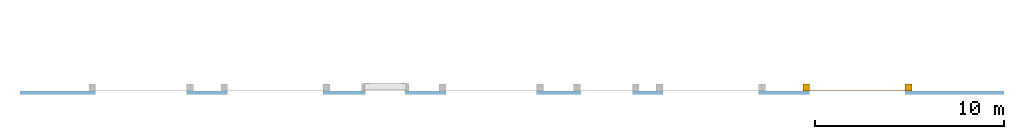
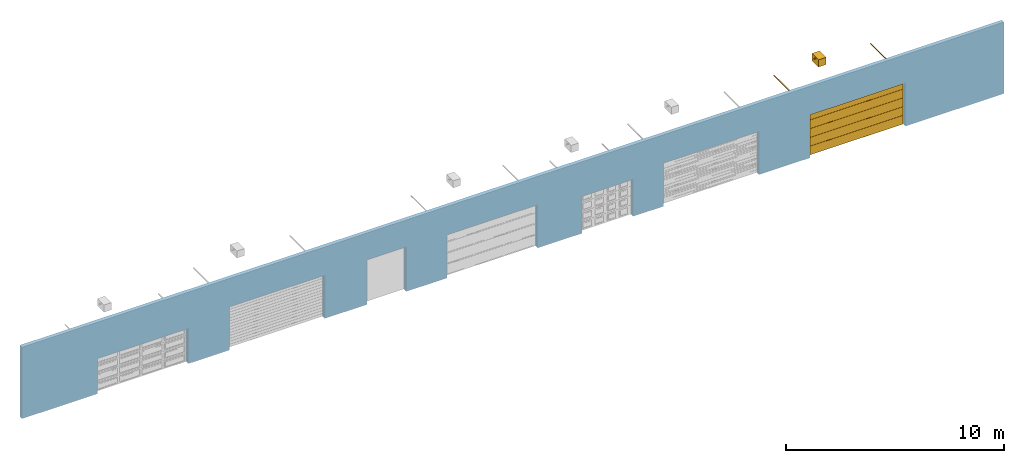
# One storey, part 4 of 4: 1 door, 7 openings, plus 1 element that does not belong to this part.
"""IFC2X3 building model written with IfcOpenShell, lengths in millimetres."""

import ifcopenshell
import ifcopenshell.guid

model = None  # the IFC model being written
_history = None  # IfcOwnerHistory: only IFC2X3 demands one
_inside = {}  # id of a spatial element -> (the spatial element, [elements in it])
_under = {}  # id of a project, library or spatial element -> (it, [spatial elements below it])
_declared = {}  # id of a project -> (the project, [libraries it declares])
_typed = {}  # id of a type object -> (the type object, [elements of that type])
_made_of = {}  # id of a material, layer set ... -> (it, [elements and type objects made of it])


def new_model(schema):
    """Start an empty IFC model of exactly this schema.

    Asked for "IFC4X3", IfcOpenShell would pick the latest addendum, in which some entities
    have other attributes; the version numbers below select the first issue.
    IFC2X3 requires an IfcOwnerHistory on every rooted entity: one is made here for all.
    """
    global model, _history
    if schema == "IFC4X3":
        model = ifcopenshell.file(schema_version=(4, 3, 0, 0))
    else:
        model = ifcopenshell.file(schema=schema)
    _inside.clear()
    _under.clear()
    _declared.clear()
    _typed.clear()
    _made_of.clear()
    _history = None
    if model.schema == "IFC2X3":
        org = make("IfcOrganization", Name="unknown")
        user = make(
            "IfcPersonAndOrganization",
            ThePerson=make("IfcPerson", FamilyName="unknown"),
            TheOrganization=org,
        )
        app = make(
            "IfcApplication",
            ApplicationDeveloper=org,
            Version="unknown",
            ApplicationFullName="unknown",
            ApplicationIdentifier="unknown",
        )
        _history = make(
            "IfcOwnerHistory",
            OwningUser=user,
            OwningApplication=app,
            ChangeAction="ADDED",
            CreationDate=0,
        )
    return model


def make(cls, **values):
    """One entity of the class cls with the attributes given. An attribute that is None is left unset."""
    return model.create_entity(
        cls, **{name: value for name, value in values.items() if value is not None}
    )


def entity(cls, *values):
    """Any entity or typed value of the class cls, its attributes in the order of the schema. None: left unset."""
    e = model.create_entity(cls)
    for i, value in enumerate(values):
        if value is not None:
            e[i] = value
    return e


def rooted(cls, **values):
    """An entity with a GlobalId (a new one), such as an element, a storey or a relation."""
    return make(cls, GlobalId=ifcopenshell.guid.new(), OwnerHistory=_history, **values)


def si_unit(unit_type, name, prefix=None):
    """IfcSIUnit, for example si_unit("LENGTHUNIT", "METRE", prefix="MILLI")."""
    return make("IfcSIUnit", UnitType=unit_type, Prefix=prefix, Name=name)


def converted_unit(unit_type, name, factor, base, dimensions=None, offset=None):
    """IfcConversionBasedUnit, such as the inch: factor (a typed value) times the base unit."""
    return make(
        "IfcConversionBasedUnit"
        if offset is None
        else "IfcConversionBasedUnitWithOffset",
        ConversionOffset=offset,
        Dimensions=None
        if dimensions is None
        else entity("IfcDimensionalExponents", *dimensions),
        UnitType=unit_type,
        Name=name,
        ConversionFactor=make(
            "IfcMeasureWithUnit", ValueComponent=factor, UnitComponent=base
        ),
    )


def derived_unit(unit_type, elements):
    """IfcDerivedUnit: a product of units, each with its exponent."""
    return make(
        "IfcDerivedUnit",
        Elements=[
            make("IfcDerivedUnitElement", Unit=unit, Exponent=power)
            for unit, power in elements
        ],
        UnitType=unit_type,
    )


def assignment(units):
    """IfcUnitAssignment: the units of a project."""
    return None if units is None else make("IfcUnitAssignment", Units=units)


def point(xyz):
    """IfcCartesianPoint."""
    return None if xyz is None else make("IfcCartesianPoint", Coordinates=xyz)


def direction(xyz):
    """IfcDirection."""
    return None if xyz is None else make("IfcDirection", DirectionRatios=xyz)


def frame(location, z_axis=None, x_axis=None):
    """IfcAxis2Placement3D, a coordinate frame: its origin and axes. An axis left out is left unset."""
    return make(
        "IfcAxis2Placement3D",
        Location=point(location),
        Axis=direction(z_axis),
        RefDirection=direction(x_axis),
    )


def frame_2d(location, x_axis=None):
    """IfcAxis2Placement2D, a coordinate frame in the plane: its origin and x axis."""
    return make(
        "IfcAxis2Placement2D", Location=point(location), RefDirection=direction(x_axis)
    )


def origin():
    """The frame at (0, 0, 0) with its axes left unset."""
    return frame((0.0, 0.0, 0.0))


def place(relative_to, where):
    """IfcLocalPlacement: puts the frame where relative to a parent placement (None: the world)."""
    return make(
        "IfcLocalPlacement", PlacementRelTo=relative_to, RelativePlacement=where
    )


def context(
    kind, dimensions, precision=None, world=None, true_north=None, identifier=None
):
    """IfcGeometricRepresentationContext, for example the 3D "Model" context."""
    return make(
        "IfcGeometricRepresentationContext",
        ContextIdentifier=identifier,
        ContextType=kind,
        CoordinateSpaceDimension=dimensions,
        Precision=precision,
        WorldCoordinateSystem=world,
        TrueNorth=true_north,
    )


def subcontext(parent, identifier, kind, view, scale=None):
    """IfcGeometricRepresentationSubContext, for example "Body" below "Model"."""
    return make(
        "IfcGeometricRepresentationSubContext",
        ContextIdentifier=identifier,
        ContextType=kind,
        ParentContext=parent,
        TargetScale=scale,
        TargetView=view,
    )


def project(units=None, contexts=None):
    """IfcProject with its units and contexts."""
    return rooted(
        "IfcProject",
        Name="project",
        RepresentationContexts=contexts,
        UnitsInContext=assignment(units),
    )


def spatial(cls, under=None, at=None, **own):
    """A site, building, storey or space (cls), placed at a placement, below another one or the project."""
    s = rooted(cls, ObjectPlacement=at, **own)
    if under is not None:
        _under.setdefault(under.id(), (under, []))[1].append(s)
    return s


def profile(cls, at=None, kind="AREA", **sizes):
    """A parametric profile (cls). Its sizes go by their IFC names, for example OverallWidth=200.0."""
    return make(cls, ProfileType=kind, Position=at, **sizes)


def rectangle(**sizes):
    """IfcRectangleProfileDef."""
    return profile("IfcRectangleProfileDef", **sizes)


def extrude(swept, where, along, depth):
    """IfcExtrudedAreaSolid: the profile swept, set in the frame where, extruded along a direction by depth."""
    return make(
        "IfcExtrudedAreaSolid",
        SweptArea=swept,
        Position=where,
        ExtrudedDirection=direction(along),
        Depth=depth,
    )


def faces_of(points, faces, orient=None, outer=None):
    """IfcFace entities. A face is a list of loops; a loop is a list of indices into points, from 0.

    orient and outer hold one flag for each loop. By default every Orientation is true, the
    first loop of a face is its IfcFaceOuterBound and the others are IfcFaceBound.
    """
    made = []
    for i, loops in enumerate(faces):
        bounds = []
        for j, loop in enumerate(loops):
            is_outer = j == 0 if outer is None else outer[i][j]
            bounds.append(
                make(
                    "IfcFaceOuterBound" if is_outer else "IfcFaceBound",
                    Bound=make("IfcPolyLoop", Polygon=[points[k] for k in loop]),
                    Orientation=True if orient is None else orient[i][j],
                )
            )
        made.append(make("IfcFace", Bounds=bounds))
    return made


def faceted_brep(points, faces, orient=None, outer=None, voids=None):
    """IfcFacetedBrep: a solid bounded by flat faces; with voids (closed shells), ...WithVoids."""
    shared = [point(p) for p in points]
    hull = make("IfcClosedShell", CfsFaces=faces_of(shared, faces, orient, outer))
    if voids is None:
        return make("IfcFacetedBrep", Outer=hull)
    return make(
        "IfcFacetedBrepWithVoids",
        Outer=hull,
        Voids=[
            make(cls, CfsFaces=faces_of(shared, fs, o, b)) for cls, fs, o, b in voids
        ],
    )


def shape(context_of_items, identifier, shape_type, items):
    """IfcShapeRepresentation: the items that make up one representation, for example the "Body"."""
    return make(
        "IfcShapeRepresentation",
        ContextOfItems=context_of_items,
        RepresentationIdentifier=identifier,
        RepresentationType=shape_type,
        Items=items,
    )


def source(mapping_origin, context_of_items, identifier, shape_type, items):
    """IfcRepresentationMap: a shape defined once, which mapped items show again and again."""
    return make(
        "IfcRepresentationMap",
        MappingOrigin=mapping_origin,
        MappedRepresentation=shape(context_of_items, identifier, shape_type, items),
    )


def transform(
    local_origin,
    x_axis=None,
    y_axis=None,
    z_axis=None,
    scale=None,
    scale2=None,
    scale3=None,
    uniform=True,
):
    """IfcCartesianTransformationOperator3D, or its non-uniform kind. x_axis, y_axis, z_axis: its Axis1, 2, 3."""
    if uniform:
        return make(
            "IfcCartesianTransformationOperator3D",
            Axis1=direction(x_axis),
            Axis2=direction(y_axis),
            LocalOrigin=point(local_origin),
            Scale=scale,
            Axis3=direction(z_axis),
        )
    return make(
        "IfcCartesianTransformationOperator3DnonUniform",
        Axis1=direction(x_axis),
        Axis2=direction(y_axis),
        LocalOrigin=point(local_origin),
        Scale=scale,
        Axis3=direction(z_axis),
        Scale2=scale2,
        Scale3=scale3,
    )


def mapped(mapping_source, mapping_target):
    """IfcMappedItem: shows the shape of a source again, moved by a transform."""
    return make(
        "IfcMappedItem", MappingSource=mapping_source, MappingTarget=mapping_target
    )


def material(Name=None, Category=None):
    """IfcMaterial."""
    return make("IfcMaterial", Name=Name, Category=Category)


def material_list(materials):
    """IfcMaterialList."""
    return make("IfcMaterialList", Materials=materials)


def layer(
    of_material, thickness, ventilated=None, Name=None, Category=None, Priority=None
):
    """IfcMaterialLayer: one layer of a wall or slab, of a material (None: an air gap)."""
    return make(
        "IfcMaterialLayer",
        Material=of_material,
        LayerThickness=thickness,
        IsVentilated=ventilated,
        Name=Name,
        Category=Category,
        Priority=Priority,
    )


def layer_set(layers, Name=None):
    """IfcMaterialLayerSet."""
    return make("IfcMaterialLayerSet", MaterialLayers=layers, LayerSetName=Name)


def layer_usage(for_layer_set, set_direction, sense, offset, extent=None):
    """IfcMaterialLayerSetUsage: how a layer set lies in its element."""
    return make(
        "IfcMaterialLayerSetUsage",
        ForLayerSet=for_layer_set,
        LayerSetDirection=set_direction,
        DirectionSense=sense,
        OffsetFromReferenceLine=offset,
        ReferenceExtent=extent,
    )


def made_of(thing, what):
    """Note that an element or type object is made of a material, layer set ...; save() writes the relation."""
    if what is not None:
        _made_of.setdefault(what.id(), (what, []))[1].append(thing)
    return thing


def type_object(cls, material=None, **own):
    """A type object (cls), such as IfcWallType, which elements share."""
    return made_of(rooted(cls, **own), material)


def type_shapes(of_type, sources):
    """Give a type object the sources (RepresentationMaps) that its elements show as mapped items."""
    of_type.RepresentationMaps = sources


def element(
    cls,
    number,
    at=None,
    inside=None,
    cuts=None,
    type_object=None,
    material=None,
    context=None,
    identifier="Body",
    shape_type=None,
    held_by="IfcProductDefinitionShape",
    body=None,
    shapes=None,
    **own,
):
    """One element of the class cls, such as IfcWall. Its Tag is "e" and its number.

    at: its placement. inside: the storey or other place that contains it. cuts: it is an
    opening in that element (IfcRelVoidsElement). A single representation is given by context,
    identifier, shape_type and body (its items); several are given by shapes. held_by: the class
    of the entity that holds the representations. save() writes the other relations.
    """
    e = rooted(cls, Tag="e%d" % number, ObjectPlacement=at, **own)
    if body is not None:
        shapes = [shape(context, identifier, shape_type, body)]
    if shapes is not None:
        e.Representation = make(held_by, Representations=shapes)
    if inside is not None:
        _inside.setdefault(inside.id(), (inside, []))[1].append(e)
    if cuts is not None:
        rooted(
            "IfcRelVoidsElement", RelatingBuildingElement=cuts, RelatedOpeningElement=e
        )
    if type_object is not None:
        _typed.setdefault(type_object.id(), (type_object, []))[1].append(e)
    return made_of(e, material)


def fill(opening, filler):
    """IfcRelFillsElement: the door or window that sits in an opening."""
    return rooted(
        "IfcRelFillsElement",
        RelatingOpeningElement=opening,
        RelatedBuildingElement=filler,
    )


def aggregate(whole, parts):
    """IfcRelAggregates: a whole, such as a stair, and the parts it consists of."""
    return rooted("IfcRelAggregates", RelatingObject=whole, RelatedObjects=parts)


def save(model, path):
    """Write the relations noted so far, then the file.

    IfcRelAggregates (storeys below a building ...), IfcRelContainedInSpatialStructure (elements
    in a storey), IfcRelDefinesByType, IfcRelAssociatesMaterial and IfcRelDeclares: one each for
    every whole, place, type object, material and project.
    """
    for whole, parts in _under.values():
        aggregate(whole, parts)
    for where, things in _inside.values():
        rooted(
            "IfcRelContainedInSpatialStructure",
            RelatedElements=things,
            RelatingStructure=where,
        )
    for kind, things in _typed.values():
        rooted("IfcRelDefinesByType", RelatedObjects=things, RelatingType=kind)
    for what, things in _made_of.values():
        rooted("IfcRelAssociatesMaterial", RelatedObjects=things, RelatingMaterial=what)
    for by, libraries in _declared.values():
        rooted("IfcRelDeclares", RelatingContext=by, RelatedDefinitions=libraries)
    model.write(path)


model = new_model("IFC2X3")

# Units and contexts
model_context = context("Model", 3, precision=0.01, world=origin(), true_north=direction((6.12303176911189e-17, 1.0)))
body_context = subcontext(model_context, "Body", "Model", "MODEL_VIEW")
ifc_project = project(units=[si_unit("LENGTHUNIT", "METRE", prefix="MILLI"), si_unit("AREAUNIT", "SQUARE_METRE"), si_unit("VOLUMEUNIT", "CUBIC_METRE"), converted_unit("PLANEANGLEUNIT", "DEGREE", entity("IfcRatioMeasure", 0.0174532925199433), si_unit("PLANEANGLEUNIT", "RADIAN"), dimensions=[0, 0, 0, 0, 0, 0, 0]), si_unit("MASSUNIT", "GRAM", prefix="KILO"), si_unit("TIMEUNIT", "SECOND"), si_unit("FREQUENCYUNIT", "HERTZ"), si_unit("THERMODYNAMICTEMPERATUREUNIT", "DEGREE_CELSIUS"), derived_unit("THERMALTRANSMITTANCEUNIT", [(si_unit("MASSUNIT", "GRAM", prefix="KILO"), 1), (si_unit("THERMODYNAMICTEMPERATUREUNIT", "KELVIN"), -1), (si_unit("TIMEUNIT", "SECOND"), -3)]), derived_unit("VOLUMETRICFLOWRATEUNIT", [(si_unit("LENGTHUNIT", "METRE"), 3), (si_unit("TIMEUNIT", "SECOND"), -1)]), si_unit("ELECTRICCURRENTUNIT", "AMPERE"), si_unit("ELECTRICVOLTAGEUNIT", "VOLT"), si_unit("POWERUNIT", "WATT"), si_unit("FORCEUNIT", "NEWTON", prefix="KILO"), si_unit("ILLUMINANCEUNIT", "LUX"), si_unit("LUMINOUSFLUXUNIT", "LUMEN"), si_unit("LUMINOUSINTENSITYUNIT", "CANDELA"), derived_unit("USERDEFINED", [(si_unit("MASSUNIT", "GRAM", prefix="KILO"), -1), (si_unit("LENGTHUNIT", "METRE"), -2), (si_unit("TIMEUNIT", "SECOND"), 3), (si_unit("LUMINOUSFLUXUNIT", "LUMEN"), 1)]), derived_unit("LINEARVELOCITYUNIT", [(si_unit("LENGTHUNIT", "METRE"), 1), (si_unit("TIMEUNIT", "SECOND"), -1)]), si_unit("PRESSUREUNIT", "PASCAL"), derived_unit("USERDEFINED", [(si_unit("LENGTHUNIT", "METRE"), -2), (si_unit("MASSUNIT", "GRAM", prefix="KILO"), 1), (si_unit("TIMEUNIT", "SECOND"), -2)])], contexts=[model_context])

# Site, building, storey
site_placement = place(None, origin())
site = spatial("IfcSite", under=ifc_project, at=site_placement, Name="Default", CompositionType="ELEMENT")
building_placement = place(site_placement, origin())
building = spatial("IfcBuilding", under=site, at=building_placement, CompositionType="ELEMENT")
storey_placement = place(building_placement, origin())
storey = spatial("IfcBuildingStorey", under=building, at=storey_placement, Name="Level 1", CompositionType="ELEMENT", Elevation=0.0)

# Wall, openings, door
ifc_material_1 = material(Name="Default Wall")
ifc_layer = layer(ifc_material_1, 200.0)
ifc_layer_set = layer_set([ifc_layer], Name="Basic Wall:Wall 1")
ifc_layer_usage = layer_usage(ifc_layer_set, "AXIS2", "NEGATIVE", 100.0)
wall_type = type_object("IfcWallType", Name="Basic Wall:Wall 1", PredefinedType="STANDARD", material=ifc_layer_set)
wall_placement = place(storey_placement, frame((-2331.13804004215, 2294.25711275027, 0.0)))
wall = element("IfcWallStandardCase", 1, at=wall_placement, inside=storey, type_object=wall_type, material=ifc_layer_usage, Name="Basic Wall:Wall 1:2445", ObjectType="Basic Wall:Wall 1:1557", context=body_context, shape_type="SweptSolid", body=[
    extrude(rectangle(XDim=52000.0, YDim=200.0, at=frame_2d((26000.0, -5.6843418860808e-14), x_axis=(-1.0, 0.0))), origin(), (0.0, 0.0, 1.0), 4000.0),
])
opening_1_placement = place(wall_placement, frame((3995.0, -100.0, 0.0)))
element("IfcOpeningElement", 2, at=opening_1_placement, cuts=wall, Name="Door-Garage-Steel Line-Sectional-Ranch:21.27 PLD:8716:1", ObjectType="Opening", context=body_context, shape_type="SweptSolid", body=[
    extrude(rectangle(XDim=1969.99999999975, YDim=4810.0, at=frame_2d((984.999999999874, 2405.0), x_axis=(1.0, 0.0))), frame((0.0, 0.0, 0.0), z_axis=(0.0, 1.0, 0.0), x_axis=(0.0, 0.0, 1.0)), (0.0, 0.0, 1.0), 200.0),
])
opening_2_placement = place(wall_placement, frame((10975.0, -100.0, 0.0)))
element("IfcOpeningElement", 3, at=opening_2_placement, cuts=wall, Name="Door-Garage-Steel Line-Sectional-Slim Line:24.505PLD:1", ObjectType="Opening", context=body_context, shape_type="SweptSolid", body=[
    extrude(rectangle(XDim=2419.99999999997, YDim=5050.0, at=frame_2d((1209.99999999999, 2525.0), x_axis=(1.0, 0.0))), frame((0.0, 0.0, 0.0), z_axis=(0.0, 1.0, 0.0), x_axis=(0.0, 0.0, 1.0)), (0.0, 0.0, 1.0), 200.0),
])
opening_3_placement = place(wall_placement, frame((20350.0, 100.0, 0.0)))
element("IfcOpeningElement", 4, at=opening_3_placement, cuts=wall, Name="Door-Roller-Steel Line-Standard:Standard:1", ObjectType="Opening", context=body_context, shape_type="SweptSolid", body=[
    extrude(rectangle(XDim=2500.0, YDim=2100.0, at=frame_2d((1250.0, 1050.0), x_axis=(1.0, 0.0))), frame((0.0, 0.0, 0.0), z_axis=(0.0, -1.0, 0.0), x_axis=(0.0, 0.0, 1.0)), (0.0, 0.0, 1.0), 200.0),
])
opening_4_placement = place(wall_placement, frame((22500.0, -100.0, 0.0)))
element("IfcOpeningElement", 5, at=opening_4_placement, cuts=wall, Name="Door-Garage-Steel Line-Sectional-Inspirations:24.505PLD:1", ObjectType="Opening", context=body_context, shape_type="SweptSolid", body=[
    extrude(rectangle(XDim=2419.99999999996, YDim=4800.0, at=frame_2d((1209.99999999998, 2400.0), x_axis=(1.0, 0.0))), frame((0.0, 0.0, 0.0), z_axis=(0.0, 1.0, 0.0), x_axis=(0.0, 0.0, 1.0)), (0.0, 0.0, 1.0), 200.0),
])
opening_5_placement = place(wall_placement, frame((29645.0, -100.0, 0.0)))
element("IfcOpeningElement", 6, at=opening_5_placement, cuts=wall, Name="Door-Garage-Steel Line-Sectional-Heritage:21.27 PLD:1", ObjectType="Opening", context=body_context, shape_type="SweptSolid", body=[
    extrude(rectangle(XDim=2069.99999999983, YDim=2710.0, at=frame_2d((1034.99999999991, 1355.0), x_axis=(1.0, 0.0))), frame((0.0, 0.0, 0.0), z_axis=(0.0, 1.0, 0.0), x_axis=(0.0, 0.0, 1.0)), (0.0, 0.0, 1.0), 200.0),
])
opening_6_placement = place(wall_placement, frame((33975.0, -100.0, 0.0)))
element("IfcOpeningElement", 7, at=opening_6_placement, cuts=wall, Name="Door-Garage-Steel Line-Sectional-Glacier:24.505PLD:1", ObjectType="Opening", context=body_context, shape_type="SweptSolid", body=[
    extrude(rectangle(XDim=2419.99999999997, YDim=5050.0, at=frame_2d((1209.99999999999, 2525.00000000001), x_axis=(1.0, 0.0))), frame((0.0, 0.0, 0.0), z_axis=(0.0, 1.0, 0.0), x_axis=(0.0, 0.0, 1.0)), (0.0, 0.0, 1.0), 200.0),
])
opening_7_placement = place(wall_placement, frame((41725.0, -100.0, 0.0)))
opening_7 = element("IfcOpeningElement", 8, at=opening_7_placement, cuts=wall, Name="Door-Garage-Steel Line-Sectional-Flat Line:24.505PLD:1", ObjectType="Opening", context=body_context, shape_type="SweptSolid", body=[
    extrude(rectangle(XDim=2419.99999999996, YDim=5050.0, at=frame_2d((1209.99999999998, 2525.0), x_axis=(1.0, 0.0))), frame((0.0, 0.0, 0.0), z_axis=(0.0, 1.0, 0.0), x_axis=(0.0, 0.0, 1.0)), (0.0, 0.0, 1.0), 200.0),
])
ifc_material_2 = material(Name="Clipsal White Electric (WE)")
ifc_material_3 = material(Name="ClearanceZone")
ifc_material_4 = material(Name="Colorbond Bushland - Steelline Doors")
ifc_material_5 = material(Name="Zincalume - Steelline Doors")
ifc_material_list_1 = material_list([ifc_material_2, ifc_material_3, ifc_material_4, ifc_material_5])
ifc_material_list_2 = material_list([ifc_material_2, ifc_material_3, ifc_material_4, ifc_material_5])
door_style = type_object("IfcDoorStyle", Name="24.505PLD", ConstructionType="NOTDEFINED", OperationType="NOTDEFINED", ParameterTakesPrecedence=False, Sizeable=False, material=ifc_material_list_2)
shared_shape = source(origin(), body_context, "Body", "Brep", [
    faceted_brep([(2861.712488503, -3257.93367340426, 2687.69999999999), (2865.30238241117, -3222.91230581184, 2689.21967505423), (2864.96635592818, -3260.98339237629, 2688.90364032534), (2864.97843983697, -3194.31238764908, 2688.91403091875), (2865.57949386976, -3193.7506259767, 2690.22631933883), (2866.712488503, -3192.69169795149, 2692.69999999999), (2866.712488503, -3231.7301424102, 2692.69999999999), (2866.712488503, -3262.61538706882, 2692.69999999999), (2865.83942221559, -3261.79938972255, 2690.80182016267), (2861.712488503, -3218.89522873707, 2687.69999999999), (2861.712488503, -3197.37341161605, 2687.69999999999), (2866.712488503, -3192.69169795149, 2700.0), (2866.712488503, -3262.61538706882, 2700.0), (2753.6486350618, -3260.99469737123, 2688.91403091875), (2756.91458639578, -3257.93367340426, 2687.69999999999), (2776.90139212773, -3258.562680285, 2687.69999999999), (2809.31353744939, -3264.58272634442, 2692.69999999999), (2791.88329139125, -3263.98530762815, 2692.69999999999), (2800.59092190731, -3263.90715652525, 2690.27009081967), (2842.04198893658, -3263.15273703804, 2690.00218734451), (2846.72813600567, -3263.30034734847, 2692.69999999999), (2838.01301297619, -3263.59905670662, 2692.69999999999), (2826.74378350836, -3263.98530762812, 2692.69999999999), (2818.03532650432, -3263.07280921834, 2689.16446609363), (2818.03630191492, -3264.22653843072, 2690.96468934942), (2847.77985543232, -3261.08989797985, 2688.30978586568), (2800.86098833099, -3261.95959605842, 2688.32444701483), (2809.31353744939, -3259.58272634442, 2687.69999999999), (2766.91865981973, -3263.11622707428, 2690.75615183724), (2781.87148247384, -3263.82197738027, 2690.96328792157), (2771.89893889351, -3263.30034734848, 2692.69999999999), (2780.61406192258, -3263.59905670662, 2692.69999999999), (2778.16560321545, -3262.50373494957, 2689.13016963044), (2832.89911935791, -3262.2406920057, 2688.69297647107), (2841.72568277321, -3258.56268028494, 2687.69999999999), (2793.10746478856, -3259.07270331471, 2687.69999999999), (2751.91458639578, -3262.61538706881, 2692.69999999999), (2753.04758102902, -3261.55645904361, 2690.22631933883), (2825.5196101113, -3259.07270331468, 2687.69999999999), (2809.31353744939, -3195.72435867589, 2687.69999999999), (2825.51961011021, -3196.2343817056, 2687.69999999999), (2841.72568277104, -3196.7444047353, 2687.69999999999), (2756.91458639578, -3236.41185671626, 2687.69999999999), (2756.91458639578, -3197.37341161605, 2687.69999999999), (2776.90139212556, -3196.74440473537, 2687.69999999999), (2793.10746478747, -3196.23438170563, 2687.69999999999), (2809.31353744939, -3264.58272634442, 2700.0), (2835.14408620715, -3263.69738868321, 2700.0), (2838.01301297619, -3191.70802831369, 2700.0), (2809.31353744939, -3190.72435867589, 2700.0), (2783.48298869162, -3191.6096963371, 2700.0), (2751.91458639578, -3192.69169795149, 2700.0), (2751.91458639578, -3262.61538706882, 2700.0), (2780.61406192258, -3263.59905670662, 2700.0), (2753.3246924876, -3232.39477920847, 2689.21967505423), (2753.66071897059, -3194.32369264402, 2688.90364032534), (2751.91458639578, -3223.57694275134, 2692.69999999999), (2751.91458639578, -3192.69169795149, 2692.69999999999), (2752.78765268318, -3193.50769529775, 2690.80182016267), (2809.31353744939, -3190.72435867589, 2692.69999999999), (2826.74378350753, -3191.32177739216, 2692.69999999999), (2818.03615299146, -3191.39992849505, 2690.27009081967), (2776.58508596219, -3192.15434798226, 2690.00218734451), (2771.8989388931, -3192.00673767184, 2692.69999999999), (2780.61406192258, -3191.70802831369, 2692.69999999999), (2791.88329139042, -3191.32177739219, 2692.69999999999), (2800.59174839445, -3192.23427580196, 2689.16446609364), (2800.59077298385, -3191.08054658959, 2690.96468934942), (2770.84721946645, -3194.21718704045, 2688.30978586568), (2817.76608656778, -3193.34748896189, 2688.32444701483), (2851.70841507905, -3192.19085794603, 2690.75615183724), (2836.75559242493, -3191.48510764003, 2690.96328792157), (2846.72813600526, -3192.00673767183, 2692.69999999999), (2838.01301297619, -3191.70802831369, 2692.69999999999), (2840.46147168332, -3192.80335007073, 2689.13016963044), (2785.72795554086, -3193.0663930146, 2688.69297647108)], [[[0, 1, 2]], [[1, 3, 4, 5]], [[6, 7, 8, 2]], [[0, 9, 1]], [[3, 1, 9]], [[2, 1, 6]], [[3, 9, 10]], [[5, 6, 1]], [[11, 12, 7, 6, 5]], [[13, 14, 15]], [[16, 17, 18]], [[19, 20, 21, 22]], [[23, 19, 24]], [[0, 2, 25]], [[23, 26, 27]], [[28, 29, 30]], [[18, 26, 23]], [[19, 25, 2]], [[29, 17, 31, 30]], [[28, 32, 29]], [[23, 24, 18]], [[33, 34, 25]], [[24, 22, 16]], [[13, 32, 28]], [[32, 26, 18]], [[32, 35, 26]], [[18, 17, 29]], [[15, 32, 13]], [[36, 37, 13, 28]], [[18, 24, 16]], [[33, 25, 19]], [[8, 7, 20]], [[22, 24, 19]], [[35, 32, 15]], [[35, 27, 26]], [[18, 29, 32]], [[36, 28, 30]], [[23, 27, 38]], [[33, 19, 23]], [[0, 25, 34]], [[23, 38, 33]], [[34, 33, 38]], [[19, 2, 8]], [[8, 20, 19]], [[39, 40, 41, 10, 9, 0, 34, 38, 27, 35, 15, 14, 42, 43, 44, 45]], [[46, 47, 12, 11, 48, 49, 50, 51, 52, 53]], [[12, 47, 46, 16, 22, 21, 20, 7]], [[53, 52, 36, 30, 31, 17, 16, 46]], [[43, 54, 55]], [[54, 13, 37, 36]], [[56, 57, 58, 55]], [[43, 42, 54]], [[13, 54, 42]], [[55, 54, 56]], [[13, 42, 14]], [[36, 56, 54]], [[52, 51, 57, 56, 36]], [[3, 10, 41]], [[59, 60, 61]], [[62, 63, 64, 65]], [[66, 62, 67]], [[43, 55, 68]], [[66, 69, 39]], [[70, 71, 72]], [[61, 69, 66]], [[62, 68, 55]], [[71, 60, 73, 72]], [[70, 74, 71]], [[66, 67, 61]], [[75, 44, 68]], [[67, 65, 59]], [[3, 74, 70]], [[74, 69, 61]], [[74, 40, 69]], [[61, 60, 71]], [[41, 74, 3]], [[5, 4, 3, 70]], [[61, 67, 59]], [[75, 68, 62]], [[58, 57, 63]], [[65, 67, 62]], [[40, 74, 41]], [[40, 39, 69]], [[61, 71, 74]], [[5, 70, 72]], [[66, 39, 45]], [[75, 62, 66]], [[43, 68, 44]], [[66, 45, 75]], [[44, 75, 45]], [[62, 55, 58]], [[58, 63, 62]], [[51, 50, 49, 59, 65, 64, 63, 57]], [[48, 11, 5, 72, 73, 60, 59, 49]]]),
    faceted_brep([(2725.0, -3645.0, 2300.0), (2325.0, -3645.0, 2300.0), (2325.0, -3045.0, 2300.0), (2725.0, -3045.0, 2300.0), (2725.0, -3645.0, 2700.0), (2725.0, -3045.0, 2700.0), (2325.0, -3045.0, 2700.0), (2325.0, -3645.0, 2700.0)], [[[0, 1, 2, 3]], [[4, 5, 6, 7]], [[1, 0, 4, 7]], [[2, 1, 7, 6]], [[3, 2, 6, 5]], [[0, 3, 5, 4]]]),
    faceted_brep([(5410.0, 0.0, 2810.0), (-360.0, 0.0, 2810.0), (-360.0, -360.0, 2810.0), (5410.0, -360.0, 2810.0), (5410.0, 0.0, 2450.0), (5410.0, -360.0, 2450.0), (-360.0, -360.0, 2450.0), (-360.0, 0.0, 2450.0)], [[[0, 1, 2, 3]], [[4, 5, 6, 7]], [[1, 0, 4, 7]], [[2, 1, 7, 6]], [[3, 2, 6, 5]], [[0, 3, 5, 4]]]),
    faceted_brep([(5410.0, 0.0, 2450.0), (5050.0, 0.0, 2450.0), (5050.0, -360.0, 2450.0), (5410.0, -360.0, 2450.0), (5410.0, 0.0, 0.0), (5410.0, -360.0, 0.0), (5050.0, -360.0, 0.0), (5050.0, 0.0, 0.0)], [[[0, 1, 2, 3]], [[4, 5, 6, 7]], [[1, 0, 4, 7]], [[2, 1, 7, 6]], [[3, 2, 6, 5]], [[0, 3, 5, 4]]]),
    faceted_brep([(0.0, 0.0, 2450.0), (-360.0, 0.0, 2450.0), (-360.0, -360.0, 2450.0), (0.0, -360.0, 2450.0), (0.0, 0.0, 0.0), (0.0, -360.0, 0.0), (-360.0, -360.0, 0.0), (-360.0, 0.0, 0.0)], [[[0, 1, 2, 3]], [[4, 5, 6, 7]], [[1, 0, 4, 7]], [[2, 1, 7, 6]], [[3, 2, 6, 5]], [[0, 3, 5, 4]]]),
    faceted_brep([(-30.0, -30.0, 1960.0), (-30.0, -5.0, 1960.0), (-30.0, 0.0, 1955.0), (-30.0, 0.0, 1475.0), (-30.0, -5.0, 1470.0), (-30.0, -30.0, 1470.0), (5080.0, -30.0, 1960.0), (5080.0, -30.0, 1470.0), (5080.0, -5.0, 1470.0), (5080.0, 0.0, 1475.0), (5080.0, 0.0, 1955.0), (5080.0, -5.0, 1960.0)], [[[0, 1, 2, 3, 4, 5]], [[6, 7, 8, 9, 10, 11]], [[1, 0, 6, 11]], [[2, 1, 11, 10]], [[3, 2, 10, 9]], [[4, 3, 9, 8]], [[5, 4, 8, 7]], [[0, 5, 7, 6]]]),
    faceted_brep([(5105.0, 0.0, 0.0), (5105.0, -30.0, 0.0), (5055.0, -30.0, 0.0), (5055.0, 0.0, 0.0), (5055.0, 0.0, 2450.0), (5055.0, -30.0, 2450.0), (5055.0, -34.7636966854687, 2492.2789774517), (5055.0, -48.8159150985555, 2532.43791043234), (5055.0, -71.4520183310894, 2568.46306235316), (5055.0, -101.536937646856, 2598.54798166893), (5055.0, -137.562089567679, 2621.18408490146), (5055.0, -177.721022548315, 2635.23630331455), (5055.0, -220.0, 2640.0), (5055.0, -3050.0, 2640.0), (5055.0, -3050.0, 2670.0), (5055.0, -220.0, 2670.0), (5055.0, -171.045394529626, 2664.48414068), (5055.0, -124.545577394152, 2648.21315093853), (5055.0, -82.8322435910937, 2622.00292614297), (5055.0, -47.9970738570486, 2587.16775640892), (5055.0, -21.7868490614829, 2545.45442260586), (5055.0, -5.51585932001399, 2498.95460547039), (5105.0, -30.0, 2450.0), (5105.0, 0.0, 2450.0), (5105.0, -5.51585932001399, 2498.95460547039), (5105.0, -21.7868490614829, 2545.45442260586), (5105.0, -47.9970738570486, 2587.16775640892), (5105.0, -82.8322435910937, 2622.00292614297), (5105.0, -124.545577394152, 2648.21315093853), (5105.0, -171.045394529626, 2664.48414068), (5105.0, -220.0, 2670.0), (5105.0, -3050.0, 2670.0), (5105.0, -3050.0, 2640.0), (5105.0, -220.0, 2640.0), (5105.0, -177.721022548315, 2635.23630331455), (5105.0, -137.562089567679, 2621.18408490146), (5105.0, -101.536937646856, 2598.54798166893), (5105.0, -71.4520183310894, 2568.46306235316), (5105.0, -48.8159150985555, 2532.43791043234), (5105.0, -34.7636966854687, 2492.2789774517)], [[[0, 1, 2, 3]], [[4, 3, 2, 5, 6, 7, 8, 9, 10, 11, 12, 13, 14, 15, 16, 17, 18, 19, 20, 21]], [[5, 2, 1, 22]], [[23, 24, 25, 26, 27, 28, 29, 30, 31, 32, 33, 34, 35, 36, 37, 38, 39, 22, 1, 0]], [[23, 0, 3, 4]], [[6, 5, 22, 39]], [[39, 38, 7, 6]], [[37, 8, 7, 38]], [[37, 36, 9, 8]], [[36, 35, 10, 9]], [[35, 34, 11, 10]], [[11, 34, 33, 12]], [[24, 23, 4, 21]], [[20, 25, 24, 21]], [[25, 20, 19, 26]], [[19, 18, 27, 26]], [[28, 27, 18, 17]], [[17, 16, 29, 28]], [[29, 16, 15, 30]], [[13, 32, 31, 14]], [[32, 13, 12, 33]], [[14, 31, 30, 15]]]),
    faceted_brep([(-5.0, -30.0, 0.0), (-55.0, -30.0, 0.0), (-55.0, 0.0, 0.0), (-5.0, 0.0, 0.0), (-5.0, 0.0, 2450.0), (-5.0, -5.51585932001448, 2498.95460547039), (-5.0, -21.7868490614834, 2545.45442260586), (-5.0, -47.997073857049, 2587.16775640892), (-5.0, -82.8322435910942, 2622.00292614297), (-5.0, -124.545577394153, 2648.21315093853), (-5.0, -171.045394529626, 2664.48414068), (-5.0, -220.0, 2670.0), (-5.0, -3050.0, 2670.0), (-5.0, -3050.0, 2640.0), (-5.0, -220.0, 2640.0), (-5.0, -177.721022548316, 2635.23630331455), (-5.0, -137.562089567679, 2621.18408490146), (-5.0, -101.536937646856, 2598.54798166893), (-5.0, -71.45201833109, 2568.46306235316), (-5.0, -48.815915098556, 2532.43791043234), (-5.0, -34.7636966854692, 2492.2789774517), (-5.0, -30.0, 2450.0), (-55.0, -30.0, 2450.0), (-55.0, -34.7636966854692, 2492.2789774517), (-55.0, -48.815915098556, 2532.43791043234), (-55.0, -71.45201833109, 2568.46306235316), (-55.0, -101.536937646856, 2598.54798166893), (-55.0, -137.562089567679, 2621.18408490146), (-55.0, -177.721022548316, 2635.23630331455), (-55.0, -220.0, 2640.0), (-55.0, -3050.0, 2640.0), (-55.0, -3050.0, 2670.0), (-55.0, -220.0, 2670.0), (-55.0, -171.045394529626, 2664.48414068), (-55.0, -124.545577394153, 2648.21315093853), (-55.0, -82.8322435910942, 2622.00292614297), (-55.0, -47.997073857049, 2587.16775640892), (-55.0, -21.7868490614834, 2545.45442260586), (-55.0, -5.51585932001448, 2498.95460547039), (-55.0, 0.0, 2450.0)], [[[0, 1, 2, 3]], [[0, 3, 4, 5, 6, 7, 8, 9, 10, 11, 12, 13, 14, 15, 16, 17, 18, 19, 20, 21]], [[1, 0, 21, 22]], [[22, 23, 24, 25, 26, 27, 28, 29, 30, 31, 32, 33, 34, 35, 36, 37, 38, 39, 2, 1]], [[3, 2, 39, 4]], [[23, 22, 21, 20]], [[19, 24, 23, 20]], [[24, 19, 18, 25]], [[18, 17, 26, 25]], [[16, 27, 26, 17]], [[16, 15, 28, 27]], [[29, 28, 15, 14]], [[5, 4, 39, 38]], [[38, 37, 6, 5]], [[36, 7, 6, 37]], [[36, 35, 8, 7]], [[9, 8, 35, 34]], [[34, 33, 10, 9]], [[32, 11, 10, 33]], [[31, 30, 13, 12]], [[29, 14, 13, 30]], [[11, 32, 31, 12]]]),
    faceted_brep([(-30.0, -30.0, 1470.0), (-30.0, -5.0, 1470.0), (-30.0, 0.0, 1465.0), (-30.0, 0.0, 985.0), (-30.0, -5.0, 980.0), (-30.0, -30.0, 980.0), (5080.0, -30.0, 1470.0), (5080.0, -30.0, 980.0), (5080.0, -5.0, 980.0), (5080.0, 0.0, 985.0), (5080.0, 0.0, 1465.0), (5080.0, -5.0, 1470.0)], [[[0, 1, 2, 3, 4, 5]], [[6, 7, 8, 9, 10, 11]], [[1, 0, 6, 11]], [[2, 1, 11, 10]], [[3, 2, 10, 9]], [[4, 3, 9, 8]], [[5, 4, 8, 7]], [[0, 5, 7, 6]]]),
    faceted_brep([(-30.0, -30.0, 980.0), (-30.0, -5.0, 980.0), (-30.0, 0.0, 975.0), (-30.0, 0.0, 495.0), (-30.0, -5.0, 490.0), (-30.0, -30.0, 490.0), (5080.0, -30.0, 980.0), (5080.0, -30.0, 490.0), (5080.0, -5.0, 490.0), (5080.0, 0.0, 495.0), (5080.0, 0.0, 975.0), (5080.0, -5.0, 980.0)], [[[0, 1, 2, 3, 4, 5]], [[6, 7, 8, 9, 10, 11]], [[1, 0, 6, 11]], [[2, 1, 11, 10]], [[3, 2, 10, 9]], [[4, 3, 9, 8]], [[5, 4, 8, 7]], [[0, 5, 7, 6]]]),
    faceted_brep([(-30.0, -30.0, 2450.0), (-30.0, -5.0, 2450.0), (-30.0, 0.0, 2445.0), (-30.0, 0.0, 1965.0), (-30.0, -5.0, 1960.0), (-30.0, -30.0, 1960.0), (5080.0, -30.0, 2450.0), (5080.0, -30.0, 1960.0), (5080.0, -5.0, 1960.0), (5080.0, 0.0, 1965.0), (5080.0, 0.0, 2445.0), (5080.0, -5.0, 2450.0)], [[[0, 1, 2, 3, 4, 5]], [[6, 7, 8, 9, 10, 11]], [[1, 0, 6, 11]], [[2, 1, 11, 10]], [[3, 2, 10, 9]], [[4, 3, 9, 8]], [[5, 4, 8, 7]], [[0, 5, 7, 6]]]),
    faceted_brep([(-30.0, -30.0, 490.0), (-30.0, -5.0, 490.0), (-30.0, 0.0, 485.0), (-30.0, 0.0, 5.0), (-30.0, -5.0, 0.0), (-30.0, -30.0, 0.0), (5080.0, -30.0, 490.0), (5080.0, -30.0, 0.0), (5080.0, -5.0, 0.0), (5080.0, 0.0, 5.0), (5080.0, 0.0, 485.0), (5080.0, -5.0, 490.0)], [[[0, 1, 2, 3, 4, 5]], [[6, 7, 8, 9, 10, 11]], [[1, 0, 6, 11]], [[2, 1, 11, 10]], [[3, 2, 10, 9]], [[4, 3, 9, 8]], [[5, 4, 8, 7]], [[0, 5, 7, 6]]]),
])
type_shapes(door_style, [shared_shape])
door_placement = place(opening_7_placement, frame((5050.0, 200.0, 0.0), z_axis=(0.0, 0.0, 1.0), x_axis=(-1.0, 0.0, 0.0)))
door = element("IfcDoor", 9, at=door_placement, inside=storey, type_object=door_style, material=ifc_material_list_1, Name="Door-Garage-Steel Line-Sectional-Flat Line:24.505PLD", ObjectType="24.505PLD", OverallHeight=2419.99999999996, OverallWidth=5050.0, context=body_context, shape_type="MappedRepresentation", body=[
    mapped(shared_shape, transform((0.0, 0.0, 0.0), scale=1.0)),
])
fill(opening_7, door)

save(model, "model.ifc")
